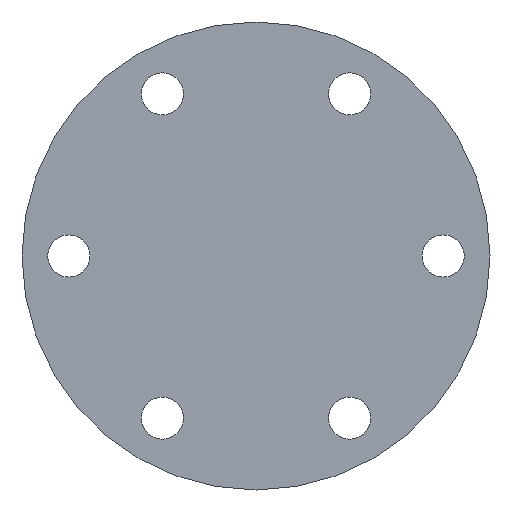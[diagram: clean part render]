
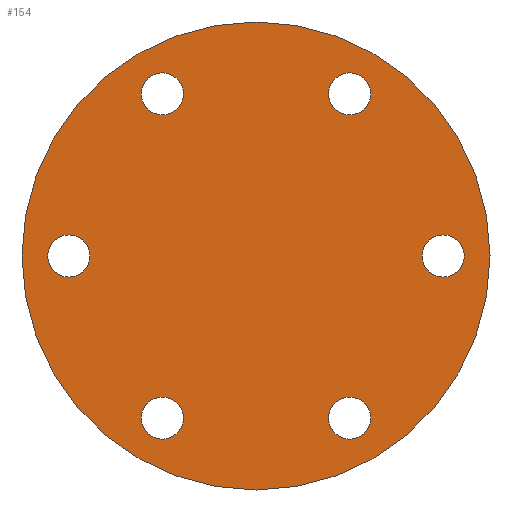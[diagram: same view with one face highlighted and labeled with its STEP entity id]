
A CAD part, front view. The second image highlights one B-rep face of the part: STEP entity #154.
In plain terms, the highlighted planar face has unit normal (0, -1, 0).
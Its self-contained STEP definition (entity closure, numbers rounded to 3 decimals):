
#13=PLANE($,#178);
#21=FACE_BOUND($,#55,.T.);
#22=FACE_BOUND($,#56,.T.);
#23=FACE_BOUND($,#57,.T.);
#24=FACE_BOUND($,#58,.T.);
#25=FACE_BOUND($,#59,.T.);
#26=FACE_BOUND($,#60,.T.);
#27=FACE_BOUND($,#61,.T.);
#55=EDGE_LOOP($,(#125));
#56=EDGE_LOOP($,(#126));
#57=EDGE_LOOP($,(#127));
#58=EDGE_LOOP($,(#128));
#59=EDGE_LOOP($,(#129));
#60=EDGE_LOOP($,(#130));
#61=EDGE_LOOP($,(#131));
#72=CIRCLE($,#162,9.);
#74=CIRCLE($,#165,9.);
#76=CIRCLE($,#168,9.);
#78=CIRCLE($,#171,9.);
#80=CIRCLE($,#174,9.);
#82=CIRCLE($,#177,9.);
#83=CIRCLE($,#179,100.);
#86=VERTEX_POINT($,#235);
#88=VERTEX_POINT($,#240);
#90=VERTEX_POINT($,#245);
#92=VERTEX_POINT($,#250);
#94=VERTEX_POINT($,#255);
#96=VERTEX_POINT($,#260);
#97=VERTEX_POINT($,#263);
#100=EDGE_CURVE($,#86,#86,#72,.T.);
#102=EDGE_CURVE($,#88,#88,#74,.T.);
#104=EDGE_CURVE($,#90,#90,#76,.T.);
#106=EDGE_CURVE($,#92,#92,#78,.T.);
#108=EDGE_CURVE($,#94,#94,#80,.T.);
#110=EDGE_CURVE($,#96,#96,#82,.T.);
#111=EDGE_CURVE($,#97,#97,#83,.T.);
#125=ORIENTED_EDGE($,*,*,#100,.T.);
#126=ORIENTED_EDGE($,*,*,#102,.T.);
#127=ORIENTED_EDGE($,*,*,#104,.T.);
#128=ORIENTED_EDGE($,*,*,#106,.T.);
#129=ORIENTED_EDGE($,*,*,#108,.T.);
#130=ORIENTED_EDGE($,*,*,#110,.T.);
#131=ORIENTED_EDGE($,*,*,#111,.F.);
#154=ADVANCED_FACE($,(#21,#22,#23,#24,#25,#26,#27),#13,.T.);
#162=AXIS2_PLACEMENT_3D($,#236,#189,#190);
#165=AXIS2_PLACEMENT_3D($,#241,#195,#196);
#168=AXIS2_PLACEMENT_3D($,#246,#201,#202);
#171=AXIS2_PLACEMENT_3D($,#251,#207,#208);
#174=AXIS2_PLACEMENT_3D($,#256,#213,#214);
#177=AXIS2_PLACEMENT_3D($,#261,#219,#220);
#178=AXIS2_PLACEMENT_3D($,#262,#221,#222);
#179=AXIS2_PLACEMENT_3D($,#264,#223,#224);
#189=DIRECTION('center_axis',(0.,1.,0.));
#190=DIRECTION('ref_axis',(0.5,0.,0.866));
#195=DIRECTION('center_axis',(0.,1.,0.));
#196=DIRECTION('ref_axis',(-0.5,0.,0.866));
#201=DIRECTION('center_axis',(0.,1.,0.));
#202=DIRECTION('ref_axis',(-1.,0.,0.));
#207=DIRECTION('center_axis',(0.,1.,0.));
#208=DIRECTION('ref_axis',(-0.5,0.,-0.866));
#213=DIRECTION('center_axis',(0.,1.,0.));
#214=DIRECTION('ref_axis',(0.5,0.,-0.866));
#219=DIRECTION('center_axis',(0.,1.,0.));
#220=DIRECTION('ref_axis',(1.,0.,0.));
#221=DIRECTION('center_axis',(0.,-1.,0.));
#222=DIRECTION('ref_axis',(0.,0.,-1.));
#223=DIRECTION('center_axis',(0.,1.,0.));
#224=DIRECTION('ref_axis',(-1.,0.,0.));
#235=CARTESIAN_POINT('',(35.5,0.,61.488));
#236=CARTESIAN_POINT('Origin',(40.,0.,69.282));
#240=CARTESIAN_POINT('',(-35.5,0.,61.488));
#241=CARTESIAN_POINT('Origin',(-40.,0.,69.282));
#245=CARTESIAN_POINT('',(-71.,0.,0.));
#246=CARTESIAN_POINT('Origin',(-80.,0.,0.));
#250=CARTESIAN_POINT('',(-35.5,0.,-61.488));
#251=CARTESIAN_POINT('Origin',(-40.,0.,-69.282));
#255=CARTESIAN_POINT('',(35.5,0.,-61.488));
#256=CARTESIAN_POINT('Origin',(40.,0.,-69.282));
#260=CARTESIAN_POINT('',(71.,0.,0.));
#261=CARTESIAN_POINT('Origin',(80.,0.,0.));
#262=CARTESIAN_POINT('Origin',(-50.,0.,0.));
#263=CARTESIAN_POINT('',(-100.,0.,0.));
#264=CARTESIAN_POINT('Origin',(0.,0.,0.));
